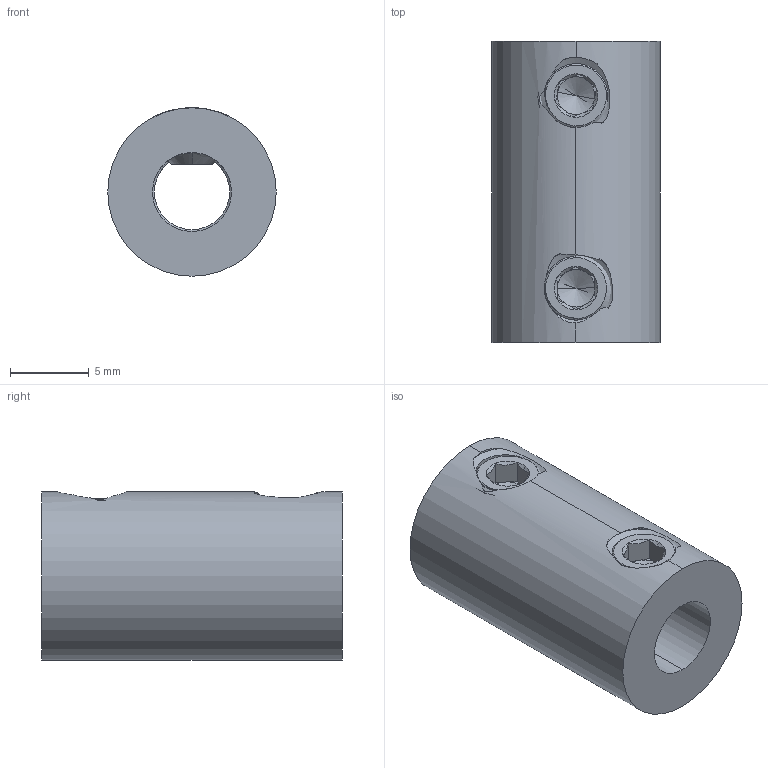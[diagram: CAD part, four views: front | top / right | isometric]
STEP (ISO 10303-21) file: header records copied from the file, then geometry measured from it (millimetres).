
FILE_DESCRIPTION (( 'STEP AP203' ), '1' );
FILE_NAME ('625176 assembly.STEP', '2016-08-26T13:31:01', ( '' ), ( '' ), 'SwSTEP 2.0', 'SolidWorks 2014', '' );
FILE_SCHEMA (( 'CONFIG_CONTROL_DESIGN' ));
Length unit declared in the file: inch
Products named in the file (3): 625176; 625176 assembly; 632134_91375A436
Assembly tree (3 placements, depth 2):
  625176 assembly
    625176
    632134_91375A436  x2
Bounding box: 10.67 x 19.05 x 10.67 mm (x, y, z)
Volume: 1317.9 mm3; surface area: 1347 mm2
Topology: 3 solids, 3 shells, 168 faces, 448 edges, 278 vertices
Faces by surface type: cylinder 77, cone 37, plane 28, bspline 26
Entity records: 13215 total; most frequent: CARTESIAN_POINT 10243, ORIENTED_EDGE 712, DIRECTION 379, EDGE_CURVE 356, VERTEX_POINT 229, AXIS2_PLACEMENT_3D 147, EDGE_LOOP 135, ADVANCED_FACE 130
